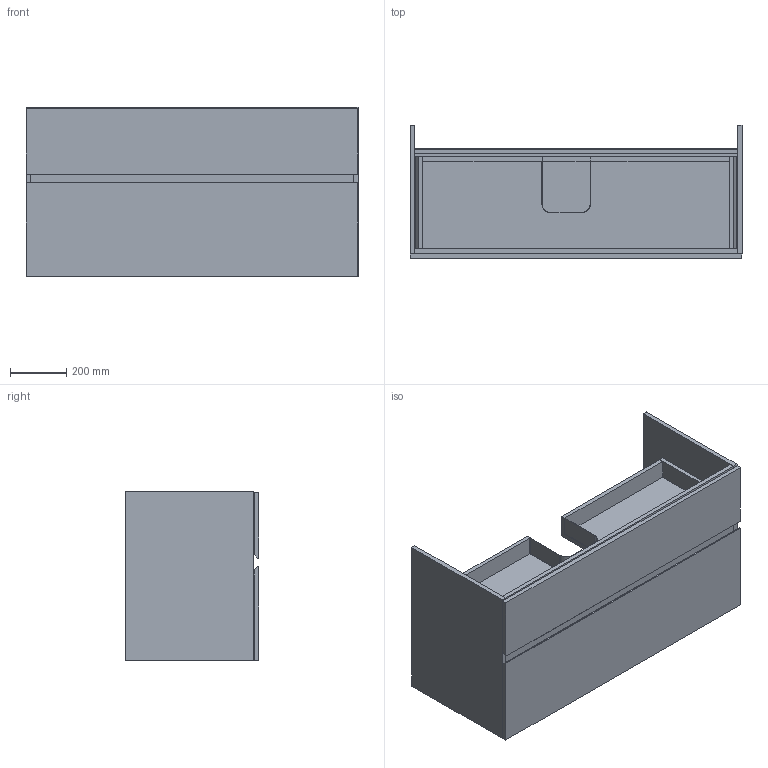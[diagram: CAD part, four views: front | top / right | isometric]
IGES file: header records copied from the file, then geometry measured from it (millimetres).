
Global section: file name: 510022; native system: Autodesk Inventor 2023; preprocessor: unknown; author: JANAN; date: 20241002.131640; units: millimetre
Bounding box: 1184 x 474.5 x 605 mm (x, y, z)
Volume: 50849663.5 mm3; surface area: 6778603.3 mm2
Topology: 9 solids, 9 shells, 122 faces, 306 edges, 200 vertices
Faces by surface type: bspline 122
